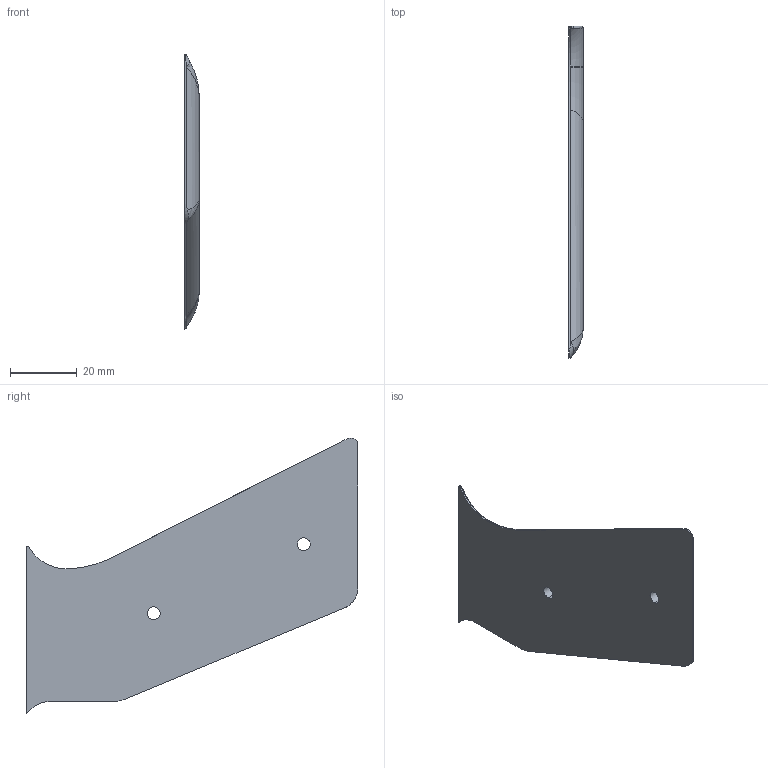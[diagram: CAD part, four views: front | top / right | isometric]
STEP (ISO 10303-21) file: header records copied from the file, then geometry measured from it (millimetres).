
FILE_DESCRIPTION (( 'STEP AP214' ), '1' );
FILE_NAME ('Grip Sides.STEP', '2021-06-11T04:49:37', ( '' ), ( '' ), 'SwSTEP 2.0', 'SolidWorks 2016', '' );
FILE_SCHEMA (( 'AUTOMOTIVE_DESIGN' ));
Length unit declared in the file: inch
Products named in the file (1): Grip Sides
Bounding box: 4.32 x 99.54 x 82.52 mm (x, y, z)
Volume: 16810.4 mm3; surface area: 9740.1 mm2
Topology: 1 solids, 1 shells, 51 faces, 125 edges, 74 vertices
Faces by surface type: cylinder 20, plane 13, cone 8, bspline 6, torus 4
Entity records: 1689 total; most frequent: CARTESIAN_POINT 505, ORIENTED_EDGE 246, DIRECTION 233, EDGE_CURVE 123, AXIS2_PLACEMENT_3D 90, VERTEX_POINT 74, EDGE_LOOP 55, LINE 53
